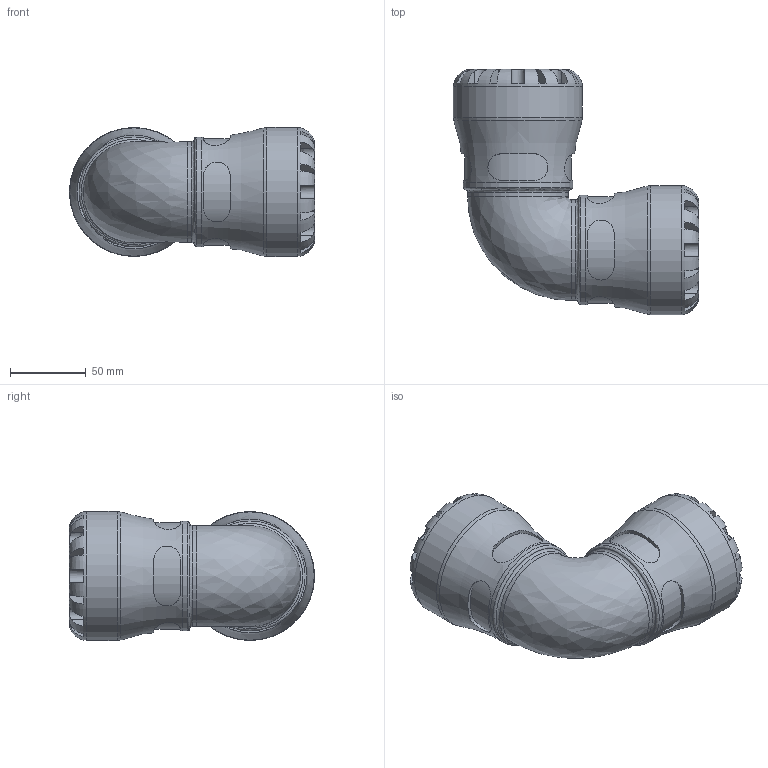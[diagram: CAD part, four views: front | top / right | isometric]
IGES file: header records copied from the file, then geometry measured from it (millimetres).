
Global section: file name: 100500050_190400050.ipt; native system: Autodesk Inventor 2015; preprocessor: unknown; author: KIM; date: 20170122.114435; units: millimetre
Bounding box: 161.5 x 161.5 x 85 mm (x, y, z)
Volume: 585320.3 mm3; surface area: 99265.9 mm2
Topology: 1 solids, 1 shells, 196 faces, 513 edges, 327 vertices
Faces by surface type: plane 116, revolution 50, cylinder 30
Full cylindrical faces by diameter (mm): 66.3 x2, 72.25 x2, 85 x2
